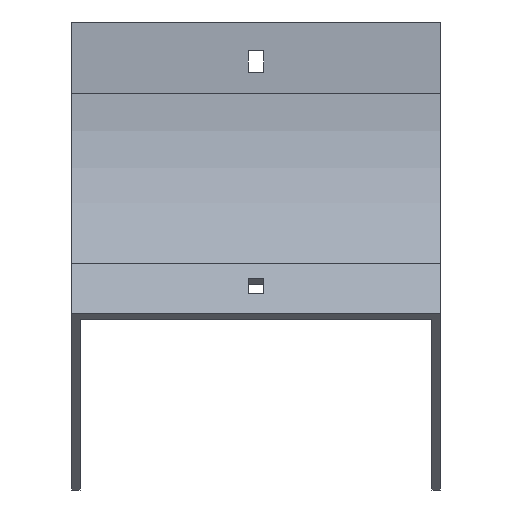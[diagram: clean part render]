
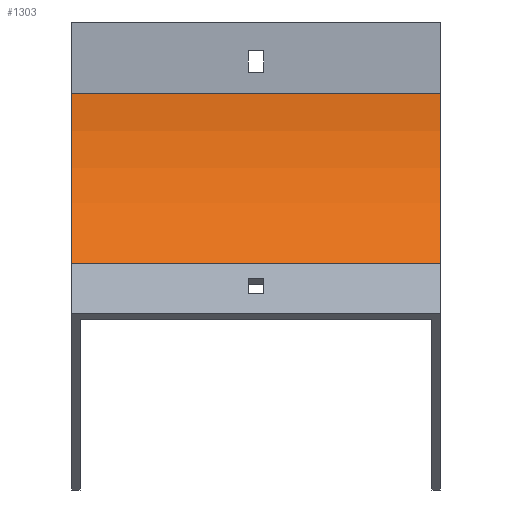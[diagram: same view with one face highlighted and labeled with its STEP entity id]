
A CAD part, front view. The second image highlights one B-rep face of the part: STEP entity #1303.
In plain terms, the highlighted cylindrical face has radius 100 mm (diameter 200 mm), a partial arc.
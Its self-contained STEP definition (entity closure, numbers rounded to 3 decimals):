
#47 = AXIS2_PLACEMENT_3D ( 'NONE', #874, #1287, #406 ) ;
#107 = AXIS2_PLACEMENT_3D ( 'NONE', #1569, #347, #1867 ) ;
#158 = VECTOR ( 'NONE', #411, 1000. ) ;
#160 = CARTESIAN_POINT ( 'NONE',  ( 77., -29.289, -100.711 ) ) ;
#169 = CARTESIAN_POINT ( 'NONE',  ( 77., -100., -30. ) ) ;
#228 = CIRCLE ( 'NONE', #1014, 100. ) ;
#259 = CARTESIAN_POINT ( 'NONE',  ( 77., 0., -30. ) ) ;
#263 = EDGE_CURVE ( 'NONE', #789, #973, #518, .T. ) ;
#347 = DIRECTION ( 'NONE',  ( -1., 0., 0. ) ) ;
#406 = DIRECTION ( 'NONE',  ( 0., 0., 1. ) ) ;
#411 = DIRECTION ( 'NONE',  ( -1., 0., 0. ) ) ;
#425 = VERTEX_POINT ( 'NONE', #160 ) ;
#472 = EDGE_LOOP ( 'NONE', ( #1596, #1412, #1262, #1689 ) ) ;
#518 = LINE ( 'NONE', #965, #1532 ) ;
#669 = CYLINDRICAL_SURFACE ( 'NONE', #107, 100. ) ;
#696 = CIRCLE ( 'NONE', #47, 100. ) ;
#724 = CARTESIAN_POINT ( 'NONE',  ( 77., -29.289, -100.711 ) ) ;
#744 = EDGE_CURVE ( 'NONE', #973, #1214, #696, .T. ) ;
#789 = VERTEX_POINT ( 'NONE', #259 ) ;
#874 = CARTESIAN_POINT ( 'NONE',  ( -77., -100., -30. ) ) ;
#965 = CARTESIAN_POINT ( 'NONE',  ( 77., 0., -30. ) ) ;
#973 = VERTEX_POINT ( 'NONE', #1347 ) ;
#1014 = AXIS2_PLACEMENT_3D ( 'NONE', #169, #1051, #1836 ) ;
#1051 = DIRECTION ( 'NONE',  ( -1., 0., 0. ) ) ;
#1197 = CARTESIAN_POINT ( 'NONE',  ( -77., -29.289, -100.711 ) ) ;
#1200 = EDGE_CURVE ( 'NONE', #789, #425, #228, .T. ) ;
#1214 = VERTEX_POINT ( 'NONE', #1197 ) ;
#1262 = ORIENTED_EDGE ( 'NONE', *, *, #1200, .F. ) ;
#1287 = DIRECTION ( 'NONE',  ( -1., 0., 0. ) ) ;
#1303 = ADVANCED_FACE ( 'NONE', ( #1702 ), #669, .F. ) ;
#1347 = CARTESIAN_POINT ( 'NONE',  ( -77., 0., -30. ) ) ;
#1412 = ORIENTED_EDGE ( 'NONE', *, *, #1670, .F. ) ;
#1532 = VECTOR ( 'NONE', #1568, 1000. ) ;
#1568 = DIRECTION ( 'NONE',  ( -1., 0., 0. ) ) ;
#1569 = CARTESIAN_POINT ( 'NONE',  ( 77., -100., -30. ) ) ;
#1596 = ORIENTED_EDGE ( 'NONE', *, *, #744, .T. ) ;
#1670 = EDGE_CURVE ( 'NONE', #425, #1214, #1758, .T. ) ;
#1689 = ORIENTED_EDGE ( 'NONE', *, *, #263, .T. ) ;
#1702 = FACE_OUTER_BOUND ( 'NONE', #472, .T. ) ;
#1758 = LINE ( 'NONE', #724, #158 ) ;
#1836 = DIRECTION ( 'NONE',  ( 0., 0., 1. ) ) ;
#1867 = DIRECTION ( 'NONE',  ( 0., 0., 1. ) ) ;
